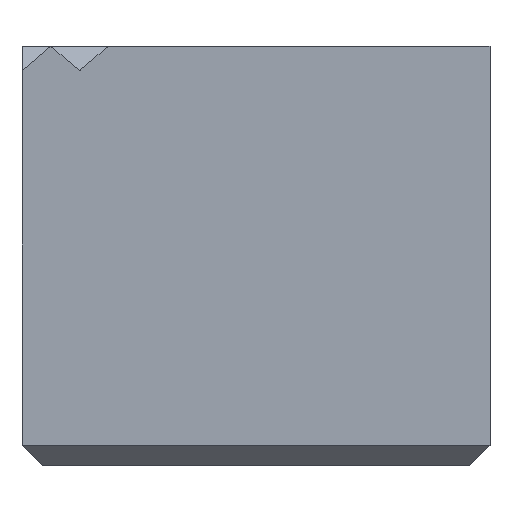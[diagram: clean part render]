
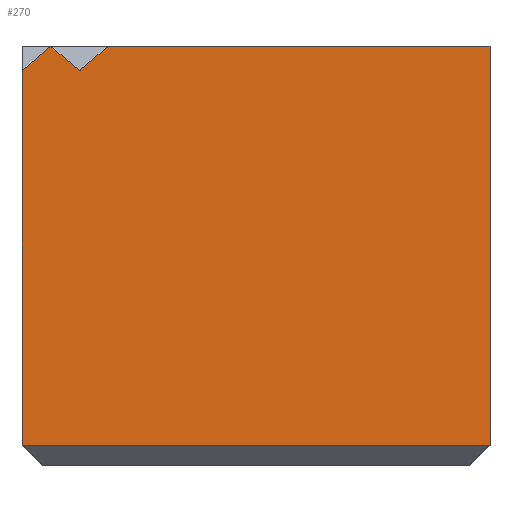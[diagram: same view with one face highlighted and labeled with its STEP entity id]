
A CAD part, front view. The second image highlights one B-rep face of the part: STEP entity #270.
In plain terms, the highlighted planar face has unit normal (0, -1, 0).
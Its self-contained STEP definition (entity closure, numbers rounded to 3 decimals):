
#141=CARTESIAN_POINT('',(-3.351,-4.765,6.545));
#142=VERTEX_POINT('',#141);
#143=CARTESIAN_POINT('',(-4.058,-4.765,7.145));
#144=VERTEX_POINT('',#143);
#145=CARTESIAN_POINT('',(-3.351,-4.765,6.545));
#146=DIRECTION('',(-0.762,0.0,0.647));
#147=VECTOR('',#146,0.927);
#148=LINE('',#145,#147);
#149=EDGE_CURVE('',#142,#144,#148,.T.);
#190=CARTESIAN_POINT('',(-2.644,-4.765,7.145));
#191=VERTEX_POINT('',#190);
#192=CARTESIAN_POINT('',(-2.644,-4.765,7.145));
#193=DIRECTION('',(-0.762,0.0,-0.647));
#194=VECTOR('',#193,0.927);
#195=LINE('',#192,#194);
#196=EDGE_CURVE('',#191,#142,#195,.T.);
#213=CARTESIAN_POINT('',(6.745,-4.765,7.145));
#214=VERTEX_POINT('',#213);
#215=CARTESIAN_POINT('',(6.745,-4.765,7.145));
#216=DIRECTION('',(-1.0,0.0,0.0));
#217=VECTOR('',#216,9.389);
#218=LINE('',#215,#217);
#219=EDGE_CURVE('',#214,#191,#218,.T.);
#230=CARTESIAN_POINT('',(6.745,-4.765,-3.175));
#231=DIRECTION('',(0.0,-1.0,0.0));
#232=DIRECTION('',(0.0,0.0,-1.0));
#233=AXIS2_PLACEMENT_3D('',#230,#231,#232);
#234=PLANE('',#233);
#235=ORIENTED_EDGE('',*,*,#196,.T.);
#236=ORIENTED_EDGE('',*,*,#149,.T.);
#237=CARTESIAN_POINT('',(-4.765,-4.765,6.545));
#238=VERTEX_POINT('',#237);
#239=CARTESIAN_POINT('',(-4.058,-4.765,7.145));
#240=DIRECTION('',(-0.762,0.,-0.647));
#241=VECTOR('',#240,0.927);
#242=LINE('',#239,#241);
#243=EDGE_CURVE('',#144,#238,#242,.T.);
#244=ORIENTED_EDGE('',*,*,#243,.T.);
#245=CARTESIAN_POINT('',(-4.765,-4.765,-2.675));
#246=VERTEX_POINT('',#245);
#247=CARTESIAN_POINT('',(-4.765,-4.765,-2.675));
#248=DIRECTION('',(0.0,0.0,1.0));
#249=VECTOR('',#248,9.22);
#250=LINE('',#247,#249);
#251=EDGE_CURVE('',#246,#238,#250,.T.);
#252=ORIENTED_EDGE('',*,*,#251,.F.);
#253=CARTESIAN_POINT('',(6.745,-4.765,-2.675));
#254=VERTEX_POINT('',#253);
#255=CARTESIAN_POINT('',(6.745,-4.765,-2.675));
#256=DIRECTION('',(-1.0,0.0,0.0));
#257=VECTOR('',#256,11.51);
#258=LINE('',#255,#257);
#259=EDGE_CURVE('',#254,#246,#258,.T.);
#260=ORIENTED_EDGE('',*,*,#259,.F.);
#261=CARTESIAN_POINT('',(6.745,-4.765,-2.675));
#262=DIRECTION('',(0.0,0.0,1.0));
#263=VECTOR('',#262,9.82);
#264=LINE('',#261,#263);
#265=EDGE_CURVE('',#254,#214,#264,.T.);
#266=ORIENTED_EDGE('',*,*,#265,.T.);
#267=ORIENTED_EDGE('',*,*,#219,.T.);
#268=EDGE_LOOP('',(#235,#236,#244,#252,#260,#266,#267));
#269=FACE_OUTER_BOUND('',#268,.T.);
#270=ADVANCED_FACE('',(#269),#234,.T.);
